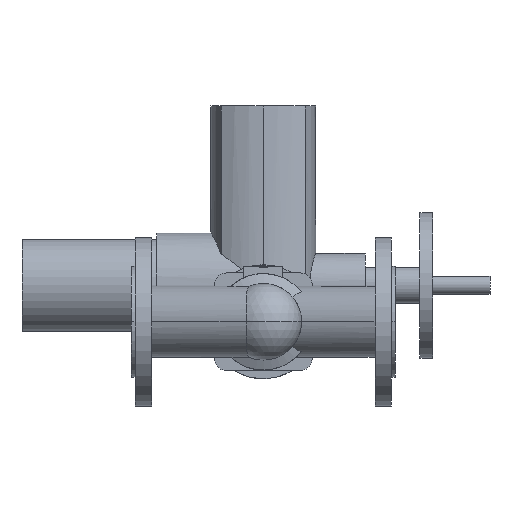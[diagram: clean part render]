
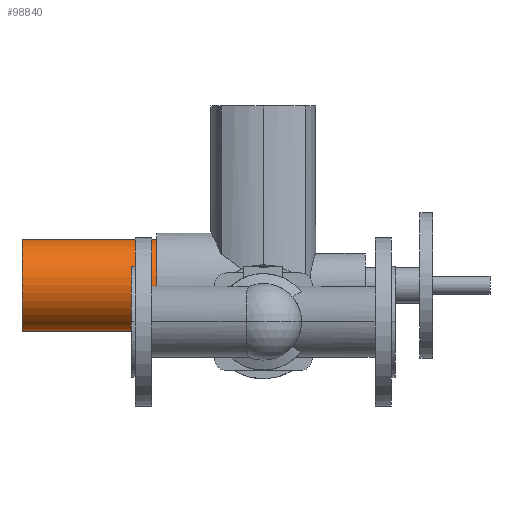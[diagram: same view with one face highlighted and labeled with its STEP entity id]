
A CAD part, front view. The second image highlights one B-rep face of the part: STEP entity #98840.
In plain terms, the highlighted cylindrical face has radius 50.5 mm (diameter 101 mm), a partial arc.
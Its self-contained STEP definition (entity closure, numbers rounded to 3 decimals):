
#53520=CARTESIAN_POINT('',(-46.,670.5,40.));
#53530=DIRECTION('',(1.,0.,0.));
#53540=DIRECTION('',(0.,0.,-1.));
#53550=AXIS2_PLACEMENT_3D('',#53520,#53530,#53540);
#53560=CYLINDRICAL_SURFACE('',#53550,50.5);
#53570=CARTESIAN_POINT('',(-46.,670.5,90.5));
#53580=DIRECTION('',(1.,0.,0.));
#53590=VECTOR('',#53580,1.);
#53600=LINE('',#53570,#53590);
#53610=CARTESIAN_POINT('',(-120.,670.5,90.5));
#53620=VERTEX_POINT('',#53610);
#53630=CARTESIAN_POINT('',(28.,670.5,90.5));
#53640=VERTEX_POINT('',#53630);
#53650=SURFACE_CURVE('',#53600,(#53560,#53560),.CURVE_3D.);
#53660=EDGE_CURVE('',#53620,#53640,#53650,.T.);
#53680=CARTESIAN_POINT('',(-120.,670.5,40.));
#53690=DIRECTION('',(-1.,0.,0.));
#53700=DIRECTION('',(0.,0.,-1.));
#53710=AXIS2_PLACEMENT_3D('',#53680,#53690,#53700);
#53720=CIRCLE('',#53710,50.5);
#53730=CARTESIAN_POINT('',(-120.,670.5,-10.5));
#53740=VERTEX_POINT('',#53730);
#53750=CARTESIAN_POINT('',(-120.,670.5,14.75));
#53760=DIRECTION('',(-1.,0.,0.));
#53770=DIRECTION('',(0.,0.,-1.));
#53780=AXIS2_PLACEMENT_3D('',#53750,#53760,#53770);
#53790=PLANE('',#53780);
#53830=CARTESIAN_POINT('',(-46.,670.5,-10.5));
#53840=DIRECTION('',(1.,0.,0.));
#53850=VECTOR('',#53840,1.);
#53860=LINE('',#53830,#53850);
#53870=CARTESIAN_POINT('',(28.,670.5,-10.5));
#53880=VERTEX_POINT('',#53870);
#53890=SURFACE_CURVE('',#53860,(#53560,#53560),.CURVE_3D.);
#53900=EDGE_CURVE('',#53740,#53880,#53890,.T.);
#53920=CARTESIAN_POINT('',(28.,670.5,40.));
#53930=DIRECTION('',(-1.,0.,0.));
#53940=DIRECTION('',(0.,0.,-1.));
#53950=AXIS2_PLACEMENT_3D('',#53920,#53930,#53940);
#53960=CIRCLE('',#53950,50.5);
#53970=CARTESIAN_POINT('',(28.,670.5,-14.));
#53980=DIRECTION('',(-1.,0.,0.));
#53990=DIRECTION('',(0.,0.,-1.));
#54000=AXIS2_PLACEMENT_3D('',#53970,#53980,#53990);
#54010=PLANE('',#54000);
#77310=SURFACE_CURVE('',#53960,(#54010,#53560),.CURVE_3D.);
#77320=EDGE_CURVE('',#53880,#53640,#77310,.T.);
#77680=SURFACE_CURVE('',#53720,(#53560,#53790),.CURVE_3D.);
#77690=EDGE_CURVE('',#53740,#53620,#77680,.T.);
#98780=ORIENTED_EDGE('',*,*,#77690,.F.);
#98790=ORIENTED_EDGE('',*,*,#53660,.F.);
#98800=ORIENTED_EDGE('',*,*,#77320,.T.);
#98810=ORIENTED_EDGE('',*,*,#53900,.T.);
#98820=EDGE_LOOP('',(#98810,#98800,#98790,#98780));
#98830=FACE_OUTER_BOUND('',#98820,.T.);
#98840=ADVANCED_FACE('',(#98830),#53560,.T.);
